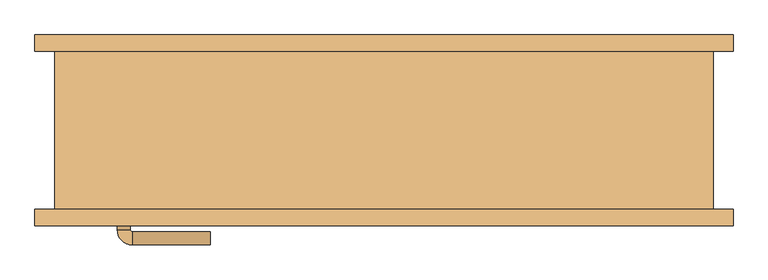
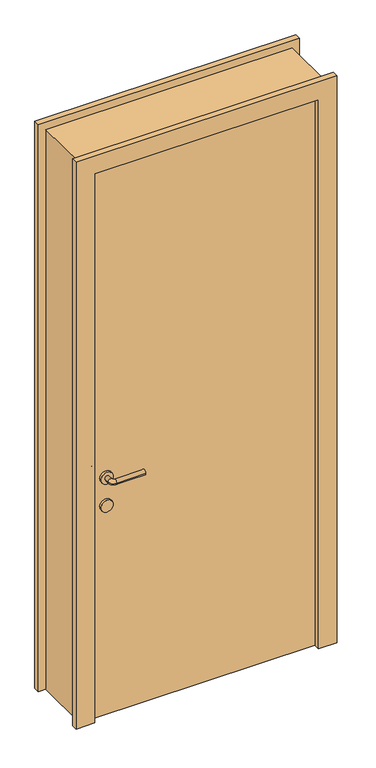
"""IFC4 building model written with IfcOpenShell, lengths in millimetres: door geometry, 单扇平开木门1 : FM甲3."""

from ifc_helpers import new_model, si_unit, point, frame, frame_2d, origin, origin_with_axes, place, context, project, spatial, polyline, circle_curve, ellipse_curve, trimmed, segment, composite_curve, outline, extrude, source, transform, mapped, element, save
from ifc_brep_helpers import plane_surface, cylinder_surface, revolved_surface, advanced_brep


def door_39c63271(model_context):
    return source(origin(), model_context, "Body", "SolidModel", [
        extrude(outline(composite_curve([segment(trimmed(circle_curve(frame_2d((900.0, -395.0)), 25.0), [point((900.0, -370.0))], [point((900.0, -420.0))], False, "CARTESIAN"), True, "CONTINUOUS"), segment(trimmed(circle_curve(frame_2d((900.0, -395.0)), 25.0), [point((900.0, -420.0))], [point((900.0, -370.0))], False, "CARTESIAN"), True, "CONTINUOUS")], self_intersect=False)), frame((0.0, -70.0, 0.0), z_axis=(0.0, 1.0, 0.0), x_axis=(0.0, 0.0, 1.0)), (0.0, 0.0, 1.0), 10.0),
        extrude(outline(composite_curve([segment(trimmed(circle_curve(frame_2d((900.0, -395.0)), 25.0), [point((900.0, -370.0))], [point((900.0, -420.0))], False, "CARTESIAN"), True, "CONTINUOUS"), segment(trimmed(circle_curve(frame_2d((900.0, -395.0)), 25.0), [point((900.0, -420.0))], [point((900.0, -370.0))], False, "CARTESIAN"), True, "CONTINUOUS")], self_intersect=False)), frame((0.0, -130.0, 0.0), z_axis=(0.0, 1.0, 0.0), x_axis=(0.0, 0.0, 1.0)), (0.0, 0.0, 1.0), 10.0),
        advanced_brep(
        [(-405.0, -60.0, 1020.0), (-385.0, -60.0, 1020.0), (-405.0, -39.386645, 1020.0), (-385.0, -39.386645, 1020.0), (-263.419036, -16.419036, 1020.0), (-263.419036, -36.419036, 1020.0), (-382.0323911, -36.419036, 1020.0), (-382.0323911, -16.419036, 1020.0)],
        [
            (0, 1, circle_curve(frame((-395.0, -60.0, 1020.0), z_axis=(0.0, -1.0, 0.0), x_axis=(1.0, 0.0, 0.0)), 10.0)),
            (1, 0, circle_curve(frame((-395.0, -60.0, 1020.0), z_axis=(0.0, -1.0, 0.0), x_axis=(1.0, 0.0, 0.0)), 10.0)),
            (0, 2),
            (2, 3, circle_curve(frame((-395.0, -39.386645, 1020.0), z_axis=(0.0, -1.0, 0.0), x_axis=(1.0, 0.0, 0.0)), 10.0)),
            (3, 1),
            (3, 2, circle_curve(frame((-395.0, -39.386645, 1020.0), z_axis=(0.0, -1.0, 0.0), x_axis=(1.0, 0.0, 0.0)), 10.0)),
            (4, 5, circle_curve(frame((-263.419036, -26.419036, 1020.0), z_axis=(1.0, 0.0, 0.0), x_axis=(0.0, -1.0, 0.0)), 10.0)),
            (5, 4, circle_curve(frame((-263.419036, -26.419036, 1020.0), z_axis=(1.0, 0.0, 0.0), x_axis=(0.0, -1.0, 0.0)), 10.0)),
            (6, 7, circle_curve(frame((-382.0323911, -26.419036, 1020.0), z_axis=(-1.0, 0.0, 0.0), x_axis=(0.0, -1.0, 0.0)), 10.0)),
            (7, 2, circle_curve(frame((-382.0323911, -39.386645, 1020.0), z_axis=(0.0, 0.0, 1.0), x_axis=(-1.0, 0.0, 0.0)), 22.9676089)),
            (3, 6, circle_curve(frame((-382.0323911, -39.386645, 1020.0), z_axis=(0.0, 0.0, -1.0), x_axis=(-1.0, 0.0, 0.0)), 2.9676089)),
            (7, 6, circle_curve(frame((-382.0323911, -26.419036, 1020.0), z_axis=(-1.0, 0.0, 0.0), x_axis=(0.0, -1.0, 0.0)), 10.0)),
            (6, 5),
            (4, 7),
        ],
        [
            plane_surface(frame((-395.0, -60.0, 900.0), z_axis=(0.0, -1.0, 0.0), x_axis=(0.0, 0.0, 1.0))),
            cylinder_surface(frame((-395.0, -60.0, 1020.0), z_axis=(0.0, -1.0, 0.0), x_axis=(1.0, 0.0, 0.0)), 10.0),
            plane_surface(frame((-263.419036, -26.419036, 900.0), z_axis=(1.0, 0.0, 0.0), x_axis=(0.0, 0.0, 1.0))),
            revolved_surface(trimmed(ellipse_curve(frame((-395.0, -39.386645, 1020.0), z_axis=(0.0, 1.0, 0.0), x_axis=(1.0, 0.0, 0.0)), 10.0, 10.0), [point((-405.0, -39.386645, 1020.0))], [point((-385.0, -39.386645, 1020.0))], True, "CARTESIAN"), (-382.0323911, -39.386645, 900.0), (0.0, 0.0, 1.0)),
            revolved_surface(trimmed(ellipse_curve(frame((-395.0, -39.386645, 1020.0), z_axis=(0.0, 1.0, 0.0), x_axis=(1.0, 0.0, 0.0)), 10.0, 10.0), [point((-385.0, -39.386645, 1020.0))], [point((-405.0, -39.386645, 1020.0))], True, "CARTESIAN"), (-382.0323911, -39.386645, 900.0), (0.0, 0.0, 1.0)),
            cylinder_surface(frame((-382.0323911, -26.419036, 1020.0), z_axis=(-1.0, 0.0, 0.0), x_axis=(0.0, -1.0, 0.0)), 10.0),
        ],
        [
            (0, [[1, 2]]),
            (1, [[3, 4, 5, -1]]),
            (1, [[-5, 6, -3, -2]]),
            (2, [[7, 8]]),
            (3, [[9, 10, -6, 11]]),
            (4, [[12, -11, -4, -10]]),
            (5, [[13, -7, 14, -9]]),
            (5, [[-14, -8, -13, -12]]),
        ],
    ),
        extrude(outline(composite_curve([segment(trimmed(circle_curve(frame_2d((1020.0, -395.0)), 25.0), [point((1020.0, -370.0))], [point((1020.0, -420.0))], False, "CARTESIAN"), True, "CONTINUOUS"), segment(trimmed(circle_curve(frame_2d((1020.0, -395.0)), 25.0), [point((1020.0, -420.0))], [point((1020.0, -370.0))], False, "CARTESIAN"), True, "CONTINUOUS")], self_intersect=False)), frame((0.0, -70.0, 0.0), z_axis=(0.0, 1.0, 0.0), x_axis=(0.0, 0.0, 1.0)), (0.0, 0.0, 1.0), 10.0),
        advanced_brep(
        [(-385.0, -130.0, 1020.0), (-405.0, -130.0, 1020.0), (-405.0, -150.6133551, 1020.0), (-385.0, -150.6133551, 1020.0), (-263.419036, -153.580964, 1020.0), (-263.419036, -173.580964, 1020.0), (-382.0323911, -173.580964, 1020.0), (-382.0323911, -153.580964, 1020.0)],
        [
            (0, 1, circle_curve(frame((-395.0, -130.0, 1020.0), z_axis=(0.0, 1.0, 0.0), x_axis=(-1.0, 0.0, 0.0)), 10.0)),
            (1, 0, circle_curve(frame((-395.0, -130.0, 1020.0), z_axis=(0.0, 1.0, 0.0), x_axis=(-1.0, 0.0, 0.0)), 10.0)),
            (1, 2),
            (2, 3, circle_curve(frame((-395.0, -150.6133551, 1020.0), z_axis=(0.0, 1.0, 0.0), x_axis=(-1.0, 0.0, 0.0)), 10.0)),
            (3, 0),
            (3, 2, circle_curve(frame((-395.0, -150.6133551, 1020.0), z_axis=(0.0, 1.0, 0.0), x_axis=(-1.0, 0.0, 0.0)), 10.0)),
            (4, 5, circle_curve(frame((-263.419036, -163.580964, 1020.0), z_axis=(1.0, 0.0, 0.0), x_axis=(0.0, -1.0, 0.0)), 10.0)),
            (5, 4, circle_curve(frame((-263.419036, -163.580964, 1020.0), z_axis=(1.0, 0.0, 0.0), x_axis=(0.0, -1.0, 0.0)), 10.0)),
            (6, 7, circle_curve(frame((-382.0323911, -163.580964, 1020.0), z_axis=(-1.0, 0.0, 0.0), x_axis=(0.0, -1.0, 0.0)), 10.0)),
            (7, 3, circle_curve(frame((-382.0323911, -150.6133551, 1020.0), z_axis=(0.0, 0.0, -1.0), x_axis=(-1.0, 0.0, 0.0)), 2.9676089)),
            (2, 6, circle_curve(frame((-382.0323911, -150.6133551, 1020.0), z_axis=(0.0, 0.0, 1.0), x_axis=(-1.0, 0.0, 0.0)), 22.9676089)),
            (7, 6, circle_curve(frame((-382.0323911, -163.580964, 1020.0), z_axis=(-1.0, 0.0, 0.0), x_axis=(0.0, -1.0, 0.0)), 10.0)),
            (6, 5),
            (4, 7),
        ],
        [
            plane_surface(frame((-395.0, -130.0, 900.0), z_axis=(0.0, 1.0, 0.0), x_axis=(0.0, 0.0, 1.0))),
            cylinder_surface(frame((-395.0, -130.0, 1020.0), z_axis=(0.0, 1.0, 0.0), x_axis=(-1.0, 0.0, 0.0)), 10.0),
            plane_surface(frame((-263.419036, -163.580964, 900.0), z_axis=(1.0, 0.0, 0.0), x_axis=(0.0, 0.0, 1.0))),
            revolved_surface(trimmed(ellipse_curve(frame((-395.0, -150.6133551, 1020.0), z_axis=(0.0, -1.0, 0.0), x_axis=(-1.0, 0.0, 0.0)), 10.0, 10.0), [point((-385.0, -150.6133551, 1020.0))], [point((-405.0, -150.6133551, 1020.0))], True, "CARTESIAN"), (-382.0323911, -150.6133551, 900.0), (0.0, 0.0, -1.0)),
            revolved_surface(trimmed(ellipse_curve(frame((-395.0, -150.6133551, 1020.0), z_axis=(0.0, -1.0, 0.0), x_axis=(-1.0, 0.0, 0.0)), 10.0, 10.0), [point((-405.0, -150.6133551, 1020.0))], [point((-385.0, -150.6133551, 1020.0))], True, "CARTESIAN"), (-382.0323911, -150.6133551, 900.0), (0.0, 0.0, -1.0)),
            cylinder_surface(frame((-382.0323911, -163.580964, 1020.0), z_axis=(-1.0, 0.0, 0.0), x_axis=(0.0, -1.0, 0.0)), 10.0),
        ],
        [
            (0, [[1, 2]]),
            (1, [[3, 4, 5, -2]]),
            (1, [[-5, 6, -3, -1]]),
            (2, [[7, 8]]),
            (3, [[9, 10, -4, 11]]),
            (4, [[12, -11, -6, -10]]),
            (5, [[13, -7, 14, -9]]),
            (5, [[-14, -8, -13, -12]]),
        ],
    ),
        extrude(outline(composite_curve([segment(trimmed(circle_curve(frame_2d((1020.0, -395.0)), 25.0), [point((1020.0, -370.0))], [point((1020.0, -420.0))], False, "CARTESIAN"), True, "CONTINUOUS"), segment(trimmed(circle_curve(frame_2d((1020.0, -395.0)), 25.0), [point((1020.0, -420.0))], [point((1020.0, -370.0))], False, "CARTESIAN"), True, "CONTINUOUS")], self_intersect=False)), frame((0.0, -130.0, 0.0), z_axis=(0.0, 1.0, 0.0), x_axis=(0.0, 0.0, 1.0)), (0.0, 0.0, 1.0), 10.0),
        extrude(outline(polyline([(0.0, 530.0), (2430.0, 530.0), (2430.0, -530.0), (0.0, -530.0), (0.0, -455.0), (2355.0, -455.0), (2355.0, 455.0), (0.0, 455.0), (0.0, 530.0)])), frame((0.0, -145.0, 0.0), z_axis=(0.0, 1.0, 0.0), x_axis=(0.0, 0.0, 1.0)), (0.0, 0.0, 1.0), 25.0),
        extrude(outline(polyline([(2430.0, 530.0), (2430.0, -530.0), (0.0, -530.0), (0.0, -455.0), (2355.0, -455.0), (2355.0, 455.0), (0.0, 455.0), (0.0, 530.0), (2430.0, 530.0)])), frame((0.0, 120.0, 0.0), z_axis=(0.0, 1.0, 0.0), x_axis=(0.0, 0.0, 1.0)), (0.0, 0.0, 1.0), 25.0),
        extrude(outline(polyline([(455.0, -70.0), (455.0, -120.0), (-455.0, -120.0), (-455.0, -70.0), (455.0, -70.0)])), origin_with_axes(), (0.0, 0.0, 1.0), 2355.0),
        extrude(outline(polyline([(2400.0, -500.0), (0.0, -500.0), (0.0, -455.0), (2355.0, -455.0), (2355.0, 455.0), (0.0, 455.0), (0.0, 500.0), (2400.0, 500.0), (2400.0, -500.0)])), frame((0.0, -120.0, 0.0), z_axis=(0.0, 1.0, 0.0), x_axis=(0.0, 0.0, 1.0)), (0.0, 0.0, 1.0), 240.0),
    ])


if __name__ == "__main__":
    model = new_model("IFC4")
    model_context = context("Model", 3, world=origin())
    ifc_project = project(units=[si_unit("LENGTHUNIT", "METRE", prefix="MILLI")], contexts=[model_context])
    site = spatial("IfcSite", under=ifc_project)
    building = spatial("IfcBuilding", under=site)
    placement = place(None, origin())
    door_shape = door_39c63271(model_context)
    element("IfcDoor", 1, ObjectType="单扇平开木门1 : FM甲3", at=placement, inside=building, context=model_context, shape_type="MappedRepresentation", body=[
        mapped(door_shape, transform((0.0, 0.0, 0.0), x_axis=(1.0, 0.0, 0.0), y_axis=(0.0, 1.0, 0.0), z_axis=(0.0, 0.0, 1.0))),
    ])
    save(model, "model.ifc")
